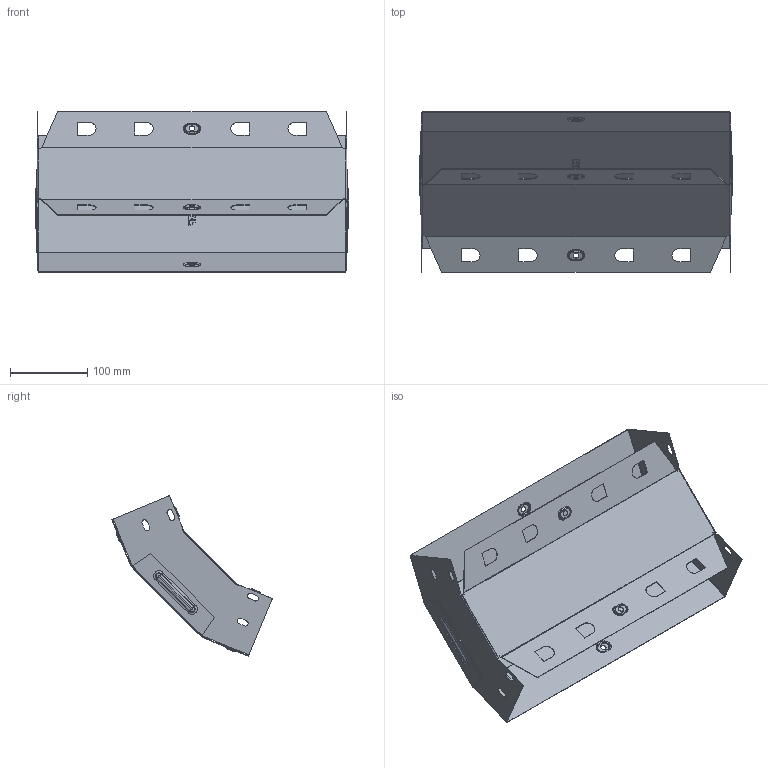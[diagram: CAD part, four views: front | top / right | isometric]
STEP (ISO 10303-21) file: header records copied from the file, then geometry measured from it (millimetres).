
FILE_DESCRIPTION (( 'STEP AP214' ), '1' );
FILE_NAME ('vo4580400_捘.STEP', '2019-06-10T08:18:06', ( '砐錪賧瘔蠈錪 Windows' ), ( '' ), 'SwSTEP 2.0', 'SolidWorks 2018', '' );
FILE_SCHEMA (( 'AUTOMOTIVE_DESIGN' ));
Length unit declared in the file: millimetre
Products named in the file (1): vo4580400_捘
Bounding box: 405.6 x 207.86 x 207.86 mm (x, y, z)
Volume: 174415.5 mm3; surface area: 439559.6 mm2
Topology: 2 solids, 2 shells, 404 faces, 1014 edges, 636 vertices
Faces by surface type: plane 197, cylinder 126, torus 64, bspline 17
Entity records: 12718 total; most frequent: CARTESIAN_POINT 2811, DIRECTION 2072, ORIENTED_EDGE 2028, EDGE_CURVE 1014, AXIS2_PLACEMENT_3D 720, VERTEX_POINT 636, VECTOR 632, LINE 632
